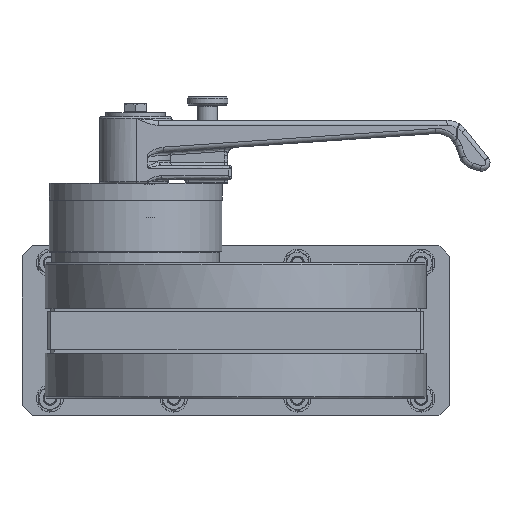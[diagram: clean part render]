
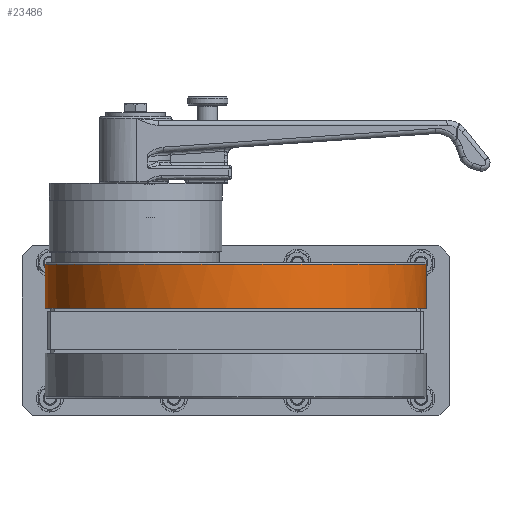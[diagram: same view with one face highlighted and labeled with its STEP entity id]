
A CAD part, front view. The second image highlights one B-rep face of the part: STEP entity #23486.
In plain terms, the highlighted free-form (B-spline) face has degree [2, 1] with [7, 2] control points.
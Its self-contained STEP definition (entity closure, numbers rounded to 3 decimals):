
#23145=CARTESIAN_POINT('V104',(112.4,
   -26.8,0.0));
#23146=VERTEX_POINT('V104',#23145);
#23147=CARTESIAN_POINT('E165',(112.4,
   -26.8,0.0));
#23148=CARTESIAN_POINT('E165',(112.4,
   -26.8,-194.683));
#23149=CARTESIAN_POINT('E165',(-56.2,
   -26.8,-97.341));
#23150=CARTESIAN_POINT('E165',(-224.8,
   -26.8,0.));
#23151=CARTESIAN_POINT('E165',(-56.2,
   -26.8,97.341));
#23152=CARTESIAN_POINT('E165',(112.4,
   -26.8,194.683));
#23153=CARTESIAN_POINT('E165',(112.4,
   -26.8,0.0));
#23161=(BOUNDED_CURVE()B_SPLINE_CURVE(2,(#23147,#23148,#23149,
   #23150,#23151,#23152,#23153),.CIRCULAR_ARC.,.T.,.U.)
   B_SPLINE_CURVE_WITH_KNOTS((3,2,2,3),(0.0,15.092,
   30.183,45.275),.UNSPECIFIED.)CURVE()
   GEOMETRIC_REPRESENTATION_ITEM()RATIONAL_B_SPLINE_CURVE((1.0,
   0.5,1.0,0.5,1.0,0.5,1.0)
   )REPRESENTATION_ITEM('E165'));
#23162=EDGE_CURVE('E165',#23146,#23146,#23161,.T.);
#23175=CARTESIAN_POINT('V128',(-112.36,
   -2.5,3.));
#23176=VERTEX_POINT('V128',#23175);
#23177=CARTESIAN_POINT('V129',(-112.36,
   -2.5,-3.));
#23178=VERTEX_POINT('V129',#23177);
#23179=CARTESIAN_POINT('E197',(-112.36,
   -2.5,3.));
#23180=CARTESIAN_POINT('E197',(-112.44,
   -2.5,0.));
#23181=CARTESIAN_POINT('E197',(-112.36,
   -2.5,-3.));
#23189=(BOUNDED_CURVE()B_SPLINE_CURVE(2,(#23179,#23180,#23181),
   .CIRCULAR_ARC.,.F.,.U.)B_SPLINE_CURVE_WITH_KNOTS((3,3),(
   0.024,0.976),.UNSPECIFIED.)CURVE()
   GEOMETRIC_REPRESENTATION_ITEM()RATIONAL_B_SPLINE_CURVE((
   0.75,0.75,0.75))
   REPRESENTATION_ITEM('E197'));
#23190=EDGE_CURVE('E197',#23176,#23178,#23189,.T.);
#23229=CARTESIAN_POINT('V131',(112.4,
   -2.5,0.));
#23230=VERTEX_POINT('V131',#23229);
#23231=CARTESIAN_POINT('V132',(112.36,
   -2.5,3.));
#23232=VERTEX_POINT('V132',#23231);
#23233=CARTESIAN_POINT('E202',(112.4,
   -2.5,0.));
#23234=CARTESIAN_POINT('E202',(112.4,
   -2.5,1.5));
#23235=CARTESIAN_POINT('E202',(112.36,
   -2.5,3.));
#23243=(BOUNDED_CURVE()B_SPLINE_CURVE(2,(#23233,#23234,#23235),
   .CIRCULAR_ARC.,.F.,.U.)B_SPLINE_CURVE_WITH_KNOTS((3,3),(0.0,
   0.953),.UNSPECIFIED.)CURVE()
   GEOMETRIC_REPRESENTATION_ITEM()RATIONAL_B_SPLINE_CURVE((1.0,
   0.992,0.985))REPRESENTATION_ITEM('E202')
   );
#23244=EDGE_CURVE('E202',#23230,#23232,#23243,.T.);
#23270=CARTESIAN_POINT('V130',(112.36,
   -2.5,-3.));
#23271=VERTEX_POINT('V130',#23270);
#23277=CARTESIAN_POINT('E200',(112.36,
   -2.5,-3.));
#23278=CARTESIAN_POINT('E200',(112.4,
   -2.5,-1.5));
#23279=CARTESIAN_POINT('E200',(112.4,
   -2.5,0.));
#23287=(BOUNDED_CURVE()B_SPLINE_CURVE(2,(#23277,#23278,#23279),
   .CIRCULAR_ARC.,.F.,.U.)B_SPLINE_CURVE_WITH_KNOTS((3,3),(
   0.047,1.0),.UNSPECIFIED.)CURVE()
   GEOMETRIC_REPRESENTATION_ITEM()RATIONAL_B_SPLINE_CURVE((
   0.985,0.992,1.0))REPRESENTATION_ITEM(
   'E200'));
#23288=EDGE_CURVE('E200',#23271,#23230,#23287,.T.);
#23298=CARTESIAN_POINT('V122',(112.36,
   -1.,3.));
#23299=VERTEX_POINT('V122',#23298);
#23320=CARTESIAN_POINT('E203',(112.36,
   -2.5,3.));
#23321=CARTESIAN_POINT('E203',(112.36,
   -1.,3.));
#23322=QUASI_UNIFORM_CURVE('E203',1,(#23320,#23321),.POLYLINE_FORM.,
   .F.,.U.);
#23323=EDGE_CURVE('E203',#23232,#23299,#23322,.T.);
#23352=CARTESIAN_POINT('V121',(-112.36,
   -1.,3.));
#23353=VERTEX_POINT('V121',#23352);
#23375=CARTESIAN_POINT('E189',(-112.36,
   -1.,3.));
#23376=CARTESIAN_POINT('E189',(-110.681,
   -1.,65.887));
#23377=CARTESIAN_POINT('E189',(-56.2,
   -1.,97.341));
#23378=CARTESIAN_POINT('E189',(107.32,
   -1.,191.75));
#23379=CARTESIAN_POINT('E189',(112.36,
   -1.,3.));
#23387=(BOUNDED_CURVE()B_SPLINE_CURVE(2,(#23375,#23376,#23377,
   #23378,#23379),.CIRCULAR_ARC.,.F.,.U.)B_SPLINE_CURVE_WITH_KNOTS(
   (3,2,3),(414.315,548.196,
   818.101),.UNSPECIFIED.)CURVE()
   GEOMETRIC_REPRESENTATION_ITEM()RATIONAL_B_SPLINE_CURVE((
   0.75,0.756,1.0,0.508,
   0.985))REPRESENTATION_ITEM('E189'));
#23388=EDGE_CURVE('E189',#23353,#23299,#23387,.T.);
#23399=CARTESIAN_POINT('E196',(-112.36,
   -1.,3.));
#23400=CARTESIAN_POINT('E196',(-112.36,
   -2.5,3.));
#23401=QUASI_UNIFORM_CURVE('E196',1,(#23399,#23400),.POLYLINE_FORM.,
   .F.,.U.);
#23402=EDGE_CURVE('E196',#23353,#23176,#23401,.T.);
#23420=CARTESIAN_POINT('F93',(112.4,
   -26.8,0.0));
#23421=CARTESIAN_POINT('F93',(112.4,
   -26.8,-194.683));
#23422=CARTESIAN_POINT('F93',(-56.2,
   -26.8,-97.341));
#23423=CARTESIAN_POINT('F93',(-224.8,
   -26.8,0.));
#23424=CARTESIAN_POINT('F93',(-56.2,
   -26.8,97.341));
#23425=CARTESIAN_POINT('F93',(112.4,
   -26.8,194.683));
#23426=CARTESIAN_POINT('F93',(112.4,
   -26.8,0.0));
#23427=CARTESIAN_POINT('F93',(112.4,-1.,
   0.0));
#23428=CARTESIAN_POINT('F93',(112.4,-1.,
   -194.683));
#23429=CARTESIAN_POINT('F93',(-56.2,-1.,
   -97.341));
#23430=CARTESIAN_POINT('F93',(-224.8,
   -1.,0.));
#23431=CARTESIAN_POINT('F93',(-56.2,-1.,
   97.341));
#23432=CARTESIAN_POINT('F93',(112.4,-1.,
   194.683));
#23433=CARTESIAN_POINT('F93',(112.4,-1.,
   0.0));
#23441=(BOUNDED_SURFACE()B_SPLINE_SURFACE(2,1,((#23420,#23427),(
   #23421,#23428),(#23422,#23429),(#23423,#23430),(#23424,
   #23431),(#23425,#23432),(#23426,#23433)),.CYLINDRICAL_SURF.,
   .T.,.F.,.U.)B_SPLINE_SURFACE_WITH_KNOTS((3,2,2,3),(2,2),(0.0,
   15.092,30.183,45.275),(0.0,
   1.0),.UNSPECIFIED.)GEOMETRIC_REPRESENTATION_ITEM()
   RATIONAL_B_SPLINE_SURFACE(((1.0,1.0),(0.5,
   0.5),(1.0,1.0),(0.5,
   0.5),(1.0,1.0),(0.5,
   0.5),(1.0,1.0)))REPRESENTATION_ITEM('F93')SURFACE(
   ));
#23442=ORIENTED_EDGE('E196',*,*,#23402,.F.);
#23443=ORIENTED_EDGE('F91',*,*,#23388,.T.);
#23444=ORIENTED_EDGE('F98',*,*,#23323,.F.);
#23445=ORIENTED_EDGE('E202',*,*,#23244,.F.);
#23446=CARTESIAN_POINT('E201',(112.4,
   -2.5,0.0));
#23447=CARTESIAN_POINT('E201',(112.4,
   -26.8,0.0));
#23448=B_SPLINE_CURVE_WITH_KNOTS('E201',1,(#23446,#23447),
   .POLYLINE_FORM.,.F.,.U.,(2,2),(0.058,1.0),
   .UNSPECIFIED.);
#23449=EDGE_CURVE('E201',#23230,#23146,#23448,.T.);
#23450=ORIENTED_EDGE('E201',*,*,#23449,.T.);
#23451=ORIENTED_EDGE('F83',*,*,#23162,.F.);
#23452=ORIENTED_EDGE('E201',*,*,#23449,.F.);
#23453=ORIENTED_EDGE('F101',*,*,#23288,.F.);
#23454=CARTESIAN_POINT('V127',(112.36,
   -1.,-3.));
#23455=VERTEX_POINT('V127',#23454);
#23456=CARTESIAN_POINT('E199',(112.36,
   -1.,-3.));
#23457=CARTESIAN_POINT('E199',(112.36,
   -2.5,-3.));
#23458=QUASI_UNIFORM_CURVE('E199',1,(#23456,#23457),.POLYLINE_FORM.,
   .F.,.U.);
#23459=EDGE_CURVE('E199',#23455,#23271,#23458,.T.);
#23460=ORIENTED_EDGE('E199',*,*,#23459,.F.);
#23461=CARTESIAN_POINT('V124',(-112.36,
   -1.,-3.));
#23462=VERTEX_POINT('V124',#23461);
#23463=CARTESIAN_POINT('E195',(112.36,
   -1.,-3.));
#23464=CARTESIAN_POINT('E195',(107.32,
   -1.,-191.75));
#23465=CARTESIAN_POINT('E195',(-56.2,
   -1.,-97.341));
#23466=CARTESIAN_POINT('E195',(-110.681,
   -1.,-65.887));
#23467=CARTESIAN_POINT('E195',(-112.36,
   -1.,-3.));
#23475=(BOUNDED_CURVE()B_SPLINE_CURVE(2,(#23463,#23464,#23465,
   #23466,#23467),.CIRCULAR_ARC.,.F.,.U.)B_SPLINE_CURVE_WITH_KNOTS(
   (3,2,3),(4.192,274.098,
   407.978),.UNSPECIFIED.)CURVE()
   GEOMETRIC_REPRESENTATION_ITEM()RATIONAL_B_SPLINE_CURVE((
   0.985,0.508,1.0,0.756,
   0.75))REPRESENTATION_ITEM('E195'));
#23476=EDGE_CURVE('E195',#23455,#23462,#23475,.T.);
#23477=ORIENTED_EDGE('E195',*,*,#23476,.T.);
#23478=CARTESIAN_POINT('E198',(-112.36,
   -2.5,-3.));
#23479=CARTESIAN_POINT('E198',(-112.36,
   -1.,-3.));
#23480=QUASI_UNIFORM_CURVE('E198',1,(#23478,#23479),.POLYLINE_FORM.,
   .F.,.U.);
#23481=EDGE_CURVE('E198',#23178,#23462,#23480,.T.);
#23482=ORIENTED_EDGE('E198',*,*,#23481,.F.);
#23483=ORIENTED_EDGE('E197',*,*,#23190,.F.);
#23484=EDGE_LOOP('F93',(#23442,#23443,#23444,#23445,#23450,#23451,
   #23452,#23453,#23460,#23477,#23482,#23483));
#23485=FACE_OUTER_BOUND('F93',#23484,.F.);
#23486=ADVANCED_FACE('F93',(#23485),#23441,.T.);
